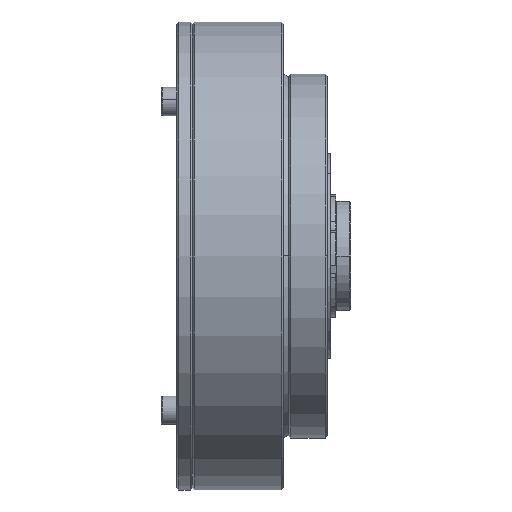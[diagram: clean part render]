
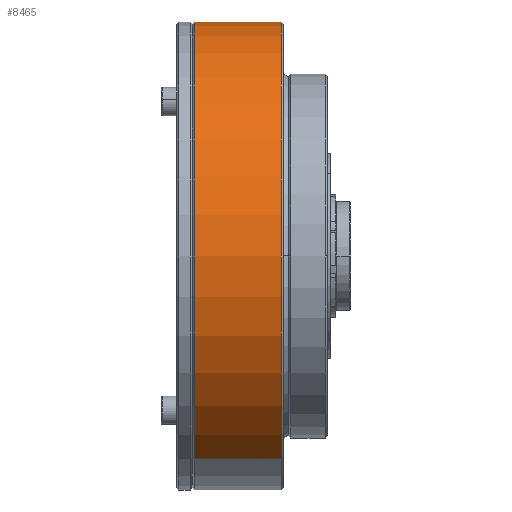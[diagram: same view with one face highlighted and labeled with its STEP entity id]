
A CAD part, front view. The second image highlights one B-rep face of the part: STEP entity #8465.
In plain terms, the highlighted cylindrical face has radius 45 mm (diameter 90 mm), a partial arc.
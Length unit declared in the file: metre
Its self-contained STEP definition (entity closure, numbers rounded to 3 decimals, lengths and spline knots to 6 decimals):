
#265 = CARTESIAN_POINT ( 'NONE',  ( -0.013069, -0.0225, -0.038971 ) ) ;
#484 = VERTEX_POINT ( 'NONE', #16002 ) ;
#1038 = VECTOR ( 'NONE', #9796, 1. ) ;
#1833 = EDGE_CURVE ( 'NONE', #1990, #14110, #16144, .T. ) ;
#1990 = VERTEX_POINT ( 'NONE', #24511 ) ;
#2022 = LINE ( 'NONE', #265, #1038 ) ;
#2216 = LINE ( 'NONE', #21868, #15859 ) ;
#6321 = DIRECTION ( 'NONE',  ( -1., 0., 0. ) ) ;
#6571 = CYLINDRICAL_SURFACE ( 'NONE', #7220, 0.045 ) ;
#7220 = AXIS2_PLACEMENT_3D ( 'NONE', #20753, #25133, #11409 ) ;
#8465 = ADVANCED_FACE ( 'NONE', ( #16250 ), #6571, .T. ) ;
#8682 = EDGE_CURVE ( 'NONE', #19504, #14110, #2022, .T. ) ;
#9796 = DIRECTION ( 'NONE',  ( -1., 0., 0. ) ) ;
#9873 = DIRECTION ( 'NONE',  ( -1., 0., 0. ) ) ;
#11409 = DIRECTION ( 'NONE',  ( 0., -0.5, -0.866 ) ) ;
#12077 = CIRCLE ( 'NONE', #16076, 0.045 ) ;
#13503 = EDGE_CURVE ( 'NONE', #484, #1990, #2216, .T. ) ;
#14110 = VERTEX_POINT ( 'NONE', #14378 ) ;
#14378 = CARTESIAN_POINT ( 'NONE',  ( -0.01, -0.0225, -0.038971 ) ) ;
#14662 = ORIENTED_EDGE ( 'NONE', *, *, #1833, .T. ) ;
#15859 = VECTOR ( 'NONE', #9873, 1. ) ;
#16002 = CARTESIAN_POINT ( 'NONE',  ( 0.0067, 0.0225, 0.038971 ) ) ;
#16076 = AXIS2_PLACEMENT_3D ( 'NONE', #20815, #6321, #25188 ) ;
#16144 = CIRCLE ( 'NONE', #18126, 0.045 ) ;
#16250 = FACE_OUTER_BOUND ( 'NONE', #19357, .T. ) ;
#16288 = DIRECTION ( 'NONE',  ( 1., 0., 0. ) ) ;
#18126 = AXIS2_PLACEMENT_3D ( 'NONE', #23285, #16288, #25791 ) ;
#18764 = ORIENTED_EDGE ( 'NONE', *, *, #20165, .T. ) ;
#19357 = EDGE_LOOP ( 'NONE', ( #18764, #22607, #14662, #26847 ) ) ;
#19504 = VERTEX_POINT ( 'NONE', #24258 ) ;
#20165 = EDGE_CURVE ( 'NONE', #19504, #484, #12077, .T. ) ;
#20753 = CARTESIAN_POINT ( 'NONE',  ( -0.013069, 0., 0. ) ) ;
#20815 = CARTESIAN_POINT ( 'NONE',  ( 0.0067, 0., 0. ) ) ;
#21868 = CARTESIAN_POINT ( 'NONE',  ( -0.013069, 0.0225, 0.038971 ) ) ;
#22607 = ORIENTED_EDGE ( 'NONE', *, *, #13503, .T. ) ;
#23285 = CARTESIAN_POINT ( 'NONE',  ( -0.01, 0., 0. ) ) ;
#24258 = CARTESIAN_POINT ( 'NONE',  ( 0.0067, -0.0225, -0.038971 ) ) ;
#24511 = CARTESIAN_POINT ( 'NONE',  ( -0.01, 0.0225, 0.038971 ) ) ;
#25133 = DIRECTION ( 'NONE',  ( -1., 0., 0. ) ) ;
#25188 = DIRECTION ( 'NONE',  ( 0., -0.5, -0.866 ) ) ;
#25791 = DIRECTION ( 'NONE',  ( 0., -0.5, -0.866 ) ) ;
#26847 = ORIENTED_EDGE ( 'NONE', *, *, #8682, .F. ) ;
